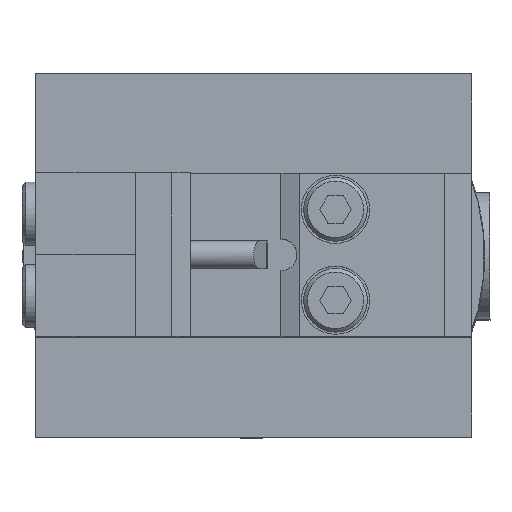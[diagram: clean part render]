
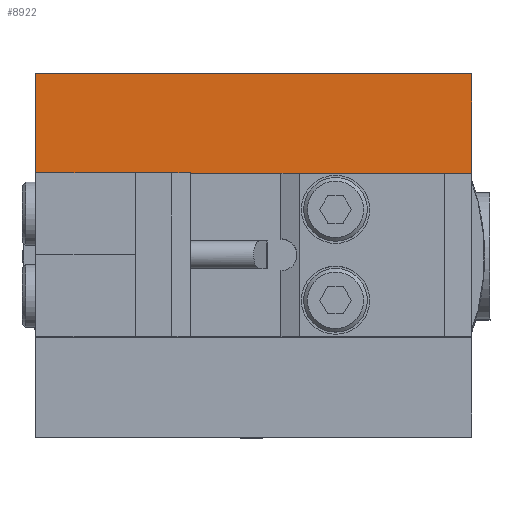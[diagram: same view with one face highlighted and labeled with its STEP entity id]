
A CAD part, top view. The second image highlights one B-rep face of the part: STEP entity #8922.
In plain terms, the highlighted planar face has unit normal (0, 0, 1) as drawn and (0, 1, 0) by its records, which use the part's own axes.
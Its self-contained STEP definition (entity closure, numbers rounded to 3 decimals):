
#1375=FACE_OUTER_BOUND('',#1929,.T.);
#1929=EDGE_LOOP('',(#7460,#7461,#7462,#7463));
#2544=LINE('',#24053,#3293);
#2586=LINE('',#24209,#3335);
#2614=LINE('',#24296,#3363);
#2615=LINE('',#24297,#3364);
#3293=VECTOR('',#11817,10.);
#3335=VECTOR('',#11981,10.);
#3363=VECTOR('',#12077,10.);
#3364=VECTOR('',#12078,10.);
#4143=VERTEX_POINT('',#24050);
#4144=VERTEX_POINT('',#24052);
#4196=VERTEX_POINT('',#24206);
#4197=VERTEX_POINT('',#24208);
#5243=EDGE_CURVE('',#4144,#4143,#2544,.T.);
#5320=EDGE_CURVE('',#4196,#4197,#2586,.T.);
#5363=EDGE_CURVE('',#4144,#4196,#2614,.T.);
#5364=EDGE_CURVE('',#4197,#4143,#2615,.T.);
#7460=ORIENTED_EDGE('',*,*,#5363,.F.);
#7461=ORIENTED_EDGE('',*,*,#5243,.T.);
#7462=ORIENTED_EDGE('',*,*,#5364,.F.);
#7463=ORIENTED_EDGE('',*,*,#5320,.F.);
#8502=PLANE('',#10078);
#8922=ADVANCED_FACE('',(#1375),#8502,.T.);
#10078=AXIS2_PLACEMENT_3D('',#24295,#12075,#12076);
#11817=DIRECTION('',(0.,0.,-1.));
#11981=DIRECTION('',(0.,0.,-1.));
#12075=DIRECTION('center_axis',(0.,1.,0.));
#12076=DIRECTION('ref_axis',(1.,0.,0.));
#12077=DIRECTION('',(-1.,0.,0.));
#12078=DIRECTION('',(1.,0.,0.));
#24050=CARTESIAN_POINT('',(24.,27.,-20.));
#24052=CARTESIAN_POINT('',(24.,27.,-9.));
#24053=CARTESIAN_POINT('',(24.,27.,-9.));
#24206=CARTESIAN_POINT('',(-24.,27.,-9.));
#24208=CARTESIAN_POINT('',(-24.,27.,-20.));
#24209=CARTESIAN_POINT('',(-24.,27.,-9.));
#24295=CARTESIAN_POINT('Origin',(-24.,27.,-9.));
#24296=CARTESIAN_POINT('',(-14.132,27.,-9.));
#24297=CARTESIAN_POINT('',(-24.,27.,-20.));
